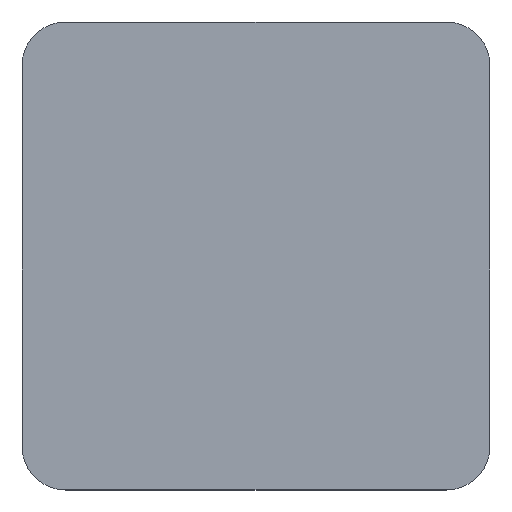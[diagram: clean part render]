
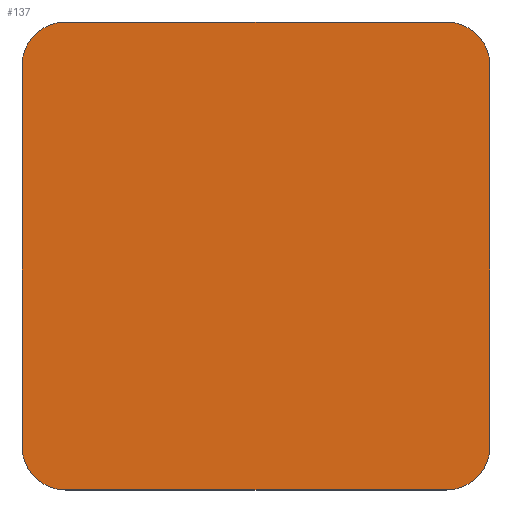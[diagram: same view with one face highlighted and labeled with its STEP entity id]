
A CAD part, top view. The second image highlights one B-rep face of the part: STEP entity #137.
In plain terms, the highlighted planar face has unit normal (0, 0, 1).
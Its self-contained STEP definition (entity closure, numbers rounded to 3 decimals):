
#21 = EDGE_CURVE('',#22,#24,#26,.T.);
#22 = VERTEX_POINT('',#23);
#23 = CARTESIAN_POINT('',(-37.5,-30.5,4.));
#24 = VERTEX_POINT('',#25);
#25 = CARTESIAN_POINT('',(-37.5,30.5,4.));
#26 = SURFACE_CURVE('',#27,(#31,#43),.PCURVE_S1.);
#27 = LINE('',#28,#29);
#28 = CARTESIAN_POINT('',(-37.5,-37.5,4.));
#29 = VECTOR('',#30,1.);
#30 = DIRECTION('',(0.,1.,0.));
#31 = PCURVE('',#32,#37);
#32 = PLANE('',#33);
#33 = AXIS2_PLACEMENT_3D('',#34,#35,#36);
#34 = CARTESIAN_POINT('',(-37.5,-37.5,0.));
#35 = DIRECTION('',(1.,0.,0.));
#36 = DIRECTION('',(0.,0.,1.));
#37 = DEFINITIONAL_REPRESENTATION('',(#38),#42);
#38 = LINE('',#39,#40);
#39 = CARTESIAN_POINT('',(4.,0.));
#40 = VECTOR('',#41,1.);
#41 = DIRECTION('',(0.,-1.));
#42 = ( GEOMETRIC_REPRESENTATION_CONTEXT(2) 
PARAMETRIC_REPRESENTATION_CONTEXT() REPRESENTATION_CONTEXT('2D SPACE',''
  ) );
#43 = PCURVE('',#44,#49);
#44 = PLANE('',#45);
#45 = AXIS2_PLACEMENT_3D('',#46,#47,#48);
#46 = CARTESIAN_POINT('',(-37.5,-37.5,4.));
#47 = DIRECTION('',(0.,0.,1.));
#48 = DIRECTION('',(1.,0.,0.));
#49 = DEFINITIONAL_REPRESENTATION('',(#50),#54);
#50 = LINE('',#51,#52);
#51 = CARTESIAN_POINT('',(0.,0.));
#52 = VECTOR('',#53,1.);
#53 = DIRECTION('',(0.,1.));
#54 = ( GEOMETRIC_REPRESENTATION_CONTEXT(2) 
PARAMETRIC_REPRESENTATION_CONTEXT() REPRESENTATION_CONTEXT('2D SPACE',''
  ) );
#72 = CYLINDRICAL_SURFACE('',#73,7.);
#73 = AXIS2_PLACEMENT_3D('',#74,#75,#76);
#74 = CARTESIAN_POINT('',(-30.5,-30.5,0.));
#75 = DIRECTION('',(0.,0.,1.));
#76 = DIRECTION('',(-1.,-0.,0.));
#126 = CYLINDRICAL_SURFACE('',#127,7.);
#127 = AXIS2_PLACEMENT_3D('',#128,#129,#130);
#128 = CARTESIAN_POINT('',(-30.5,30.5,0.));
#129 = DIRECTION('',(0.,0.,1.));
#130 = DIRECTION('',(-1.,-0.,0.));
#137 = ADVANCED_FACE('',(#138),#44,.T.);
#138 = FACE_BOUND('',#139,.T.);
#139 = EDGE_LOOP('',(#140,#141,#165,#193,#226,#254,#283,#311));
#140 = ORIENTED_EDGE('',*,*,#21,.F.);
#141 = ORIENTED_EDGE('',*,*,#142,.T.);
#142 = EDGE_CURVE('',#22,#143,#145,.T.);
#143 = VERTEX_POINT('',#144);
#144 = CARTESIAN_POINT('',(-30.5,-37.5,4.));
#145 = SURFACE_CURVE('',#146,(#151,#158),.PCURVE_S1.);
#146 = CIRCLE('',#147,7.);
#147 = AXIS2_PLACEMENT_3D('',#148,#149,#150);
#148 = CARTESIAN_POINT('',(-30.5,-30.5,4.));
#149 = DIRECTION('',(0.,0.,1.));
#150 = DIRECTION('',(0.,-1.,0.));
#151 = PCURVE('',#44,#152);
#152 = DEFINITIONAL_REPRESENTATION('',(#153),#157);
#153 = CIRCLE('',#154,7.);
#154 = AXIS2_PLACEMENT_2D('',#155,#156);
#155 = CARTESIAN_POINT('',(7.,7.));
#156 = DIRECTION('',(0.,-1.));
#157 = ( GEOMETRIC_REPRESENTATION_CONTEXT(2) 
PARAMETRIC_REPRESENTATION_CONTEXT() REPRESENTATION_CONTEXT('2D SPACE',''
  ) );
#158 = PCURVE('',#72,#159);
#159 = DEFINITIONAL_REPRESENTATION('',(#160),#164);
#160 = LINE('',#161,#162);
#161 = CARTESIAN_POINT('',(-4.712,4.));
#162 = VECTOR('',#163,1.);
#163 = DIRECTION('',(1.,0.));
#164 = ( GEOMETRIC_REPRESENTATION_CONTEXT(2) 
PARAMETRIC_REPRESENTATION_CONTEXT() REPRESENTATION_CONTEXT('2D SPACE',''
  ) );
#165 = ORIENTED_EDGE('',*,*,#166,.T.);
#166 = EDGE_CURVE('',#143,#167,#169,.T.);
#167 = VERTEX_POINT('',#168);
#168 = CARTESIAN_POINT('',(30.5,-37.5,4.));
#169 = SURFACE_CURVE('',#170,(#174,#181),.PCURVE_S1.);
#170 = LINE('',#171,#172);
#171 = CARTESIAN_POINT('',(-37.5,-37.5,4.));
#172 = VECTOR('',#173,1.);
#173 = DIRECTION('',(1.,0.,0.));
#174 = PCURVE('',#44,#175);
#175 = DEFINITIONAL_REPRESENTATION('',(#176),#180);
#176 = LINE('',#177,#178);
#177 = CARTESIAN_POINT('',(0.,0.));
#178 = VECTOR('',#179,1.);
#179 = DIRECTION('',(1.,0.));
#180 = ( GEOMETRIC_REPRESENTATION_CONTEXT(2) 
PARAMETRIC_REPRESENTATION_CONTEXT() REPRESENTATION_CONTEXT('2D SPACE',''
  ) );
#181 = PCURVE('',#182,#187);
#182 = PLANE('',#183);
#183 = AXIS2_PLACEMENT_3D('',#184,#185,#186);
#184 = CARTESIAN_POINT('',(-37.5,-37.5,0.));
#185 = DIRECTION('',(0.,1.,0.));
#186 = DIRECTION('',(0.,0.,1.));
#187 = DEFINITIONAL_REPRESENTATION('',(#188),#192);
#188 = LINE('',#189,#190);
#189 = CARTESIAN_POINT('',(4.,0.));
#190 = VECTOR('',#191,1.);
#191 = DIRECTION('',(0.,1.));
#192 = ( GEOMETRIC_REPRESENTATION_CONTEXT(2) 
PARAMETRIC_REPRESENTATION_CONTEXT() REPRESENTATION_CONTEXT('2D SPACE',''
  ) );
#193 = ORIENTED_EDGE('',*,*,#194,.F.);
#194 = EDGE_CURVE('',#195,#167,#197,.T.);
#195 = VERTEX_POINT('',#196);
#196 = CARTESIAN_POINT('',(37.5,-30.5,4.));
#197 = SURFACE_CURVE('',#198,(#203,#214),.PCURVE_S1.);
#198 = CIRCLE('',#199,7.);
#199 = AXIS2_PLACEMENT_3D('',#200,#201,#202);
#200 = CARTESIAN_POINT('',(30.5,-30.5,4.));
#201 = DIRECTION('',(-0.,-0.,-1.));
#202 = DIRECTION('',(0.,-1.,0.));
#203 = PCURVE('',#44,#204);
#204 = DEFINITIONAL_REPRESENTATION('',(#205),#213);
#205 = ( BOUNDED_CURVE() B_SPLINE_CURVE(2,(#206,#207,#208,#209,#210,#211
,#212),.UNSPECIFIED.,.T.,.F.) B_SPLINE_CURVE_WITH_KNOTS((1,2,2,2,2,1),(
    -2.094,0.,2.094,4.189,6.283,
8.378),.UNSPECIFIED.) CURVE() GEOMETRIC_REPRESENTATION_ITEM() 
RATIONAL_B_SPLINE_CURVE((1.,0.5,1.,0.5,1.,0.5,1.)) REPRESENTATION_ITEM(
  '') );
#206 = CARTESIAN_POINT('',(68.,0.));
#207 = CARTESIAN_POINT('',(55.876,0.));
#208 = CARTESIAN_POINT('',(61.938,10.5));
#209 = CARTESIAN_POINT('',(68.,21.));
#210 = CARTESIAN_POINT('',(74.062,10.5));
#211 = CARTESIAN_POINT('',(80.124,0.));
#212 = CARTESIAN_POINT('',(68.,0.));
#213 = ( GEOMETRIC_REPRESENTATION_CONTEXT(2) 
PARAMETRIC_REPRESENTATION_CONTEXT() REPRESENTATION_CONTEXT('2D SPACE',''
  ) );
#214 = PCURVE('',#215,#220);
#215 = CYLINDRICAL_SURFACE('',#216,7.);
#216 = AXIS2_PLACEMENT_3D('',#217,#218,#219);
#217 = CARTESIAN_POINT('',(30.5,-30.5,0.));
#218 = DIRECTION('',(0.,0.,1.));
#219 = DIRECTION('',(1.,0.,-0.));
#220 = DEFINITIONAL_REPRESENTATION('',(#221),#225);
#221 = LINE('',#222,#223);
#222 = CARTESIAN_POINT('',(4.712,4.));
#223 = VECTOR('',#224,1.);
#224 = DIRECTION('',(-1.,0.));
#225 = ( GEOMETRIC_REPRESENTATION_CONTEXT(2) 
PARAMETRIC_REPRESENTATION_CONTEXT() REPRESENTATION_CONTEXT('2D SPACE',''
  ) );
#226 = ORIENTED_EDGE('',*,*,#227,.T.);
#227 = EDGE_CURVE('',#195,#228,#230,.T.);
#228 = VERTEX_POINT('',#229);
#229 = CARTESIAN_POINT('',(37.5,30.5,4.));
#230 = SURFACE_CURVE('',#231,(#235,#242),.PCURVE_S1.);
#231 = LINE('',#232,#233);
#232 = CARTESIAN_POINT('',(37.5,-37.5,4.));
#233 = VECTOR('',#234,1.);
#234 = DIRECTION('',(0.,1.,0.));
#235 = PCURVE('',#44,#236);
#236 = DEFINITIONAL_REPRESENTATION('',(#237),#241);
#237 = LINE('',#238,#239);
#238 = CARTESIAN_POINT('',(75.,0.));
#239 = VECTOR('',#240,1.);
#240 = DIRECTION('',(0.,1.));
#241 = ( GEOMETRIC_REPRESENTATION_CONTEXT(2) 
PARAMETRIC_REPRESENTATION_CONTEXT() REPRESENTATION_CONTEXT('2D SPACE',''
  ) );
#242 = PCURVE('',#243,#248);
#243 = PLANE('',#244);
#244 = AXIS2_PLACEMENT_3D('',#245,#246,#247);
#245 = CARTESIAN_POINT('',(37.5,-37.5,0.));
#246 = DIRECTION('',(1.,0.,0.));
#247 = DIRECTION('',(0.,0.,1.));
#248 = DEFINITIONAL_REPRESENTATION('',(#249),#253);
#249 = LINE('',#250,#251);
#250 = CARTESIAN_POINT('',(4.,0.));
#251 = VECTOR('',#252,1.);
#252 = DIRECTION('',(0.,-1.));
#253 = ( GEOMETRIC_REPRESENTATION_CONTEXT(2) 
PARAMETRIC_REPRESENTATION_CONTEXT() REPRESENTATION_CONTEXT('2D SPACE',''
  ) );
#254 = ORIENTED_EDGE('',*,*,#255,.T.);
#255 = EDGE_CURVE('',#228,#256,#258,.T.);
#256 = VERTEX_POINT('',#257);
#257 = CARTESIAN_POINT('',(30.5,37.5,4.));
#258 = SURFACE_CURVE('',#259,(#264,#271),.PCURVE_S1.);
#259 = CIRCLE('',#260,7.);
#260 = AXIS2_PLACEMENT_3D('',#261,#262,#263);
#261 = CARTESIAN_POINT('',(30.5,30.5,4.));
#262 = DIRECTION('',(0.,0.,1.));
#263 = DIRECTION('',(0.,-1.,0.));
#264 = PCURVE('',#44,#265);
#265 = DEFINITIONAL_REPRESENTATION('',(#266),#270);
#266 = CIRCLE('',#267,7.);
#267 = AXIS2_PLACEMENT_2D('',#268,#269);
#268 = CARTESIAN_POINT('',(68.,68.));
#269 = DIRECTION('',(0.,-1.));
#270 = ( GEOMETRIC_REPRESENTATION_CONTEXT(2) 
PARAMETRIC_REPRESENTATION_CONTEXT() REPRESENTATION_CONTEXT('2D SPACE',''
  ) );
#271 = PCURVE('',#272,#277);
#272 = CYLINDRICAL_SURFACE('',#273,7.);
#273 = AXIS2_PLACEMENT_3D('',#274,#275,#276);
#274 = CARTESIAN_POINT('',(30.5,30.5,0.));
#275 = DIRECTION('',(0.,0.,1.));
#276 = DIRECTION('',(1.,0.,-0.));
#277 = DEFINITIONAL_REPRESENTATION('',(#278),#282);
#278 = LINE('',#279,#280);
#279 = CARTESIAN_POINT('',(-1.571,4.));
#280 = VECTOR('',#281,1.);
#281 = DIRECTION('',(1.,0.));
#282 = ( GEOMETRIC_REPRESENTATION_CONTEXT(2) 
PARAMETRIC_REPRESENTATION_CONTEXT() REPRESENTATION_CONTEXT('2D SPACE',''
  ) );
#283 = ORIENTED_EDGE('',*,*,#284,.F.);
#284 = EDGE_CURVE('',#285,#256,#287,.T.);
#285 = VERTEX_POINT('',#286);
#286 = CARTESIAN_POINT('',(-30.5,37.5,4.));
#287 = SURFACE_CURVE('',#288,(#292,#299),.PCURVE_S1.);
#288 = LINE('',#289,#290);
#289 = CARTESIAN_POINT('',(-37.5,37.5,4.));
#290 = VECTOR('',#291,1.);
#291 = DIRECTION('',(1.,0.,0.));
#292 = PCURVE('',#44,#293);
#293 = DEFINITIONAL_REPRESENTATION('',(#294),#298);
#294 = LINE('',#295,#296);
#295 = CARTESIAN_POINT('',(0.,75.));
#296 = VECTOR('',#297,1.);
#297 = DIRECTION('',(1.,0.));
#298 = ( GEOMETRIC_REPRESENTATION_CONTEXT(2) 
PARAMETRIC_REPRESENTATION_CONTEXT() REPRESENTATION_CONTEXT('2D SPACE',''
  ) );
#299 = PCURVE('',#300,#305);
#300 = PLANE('',#301);
#301 = AXIS2_PLACEMENT_3D('',#302,#303,#304);
#302 = CARTESIAN_POINT('',(-37.5,37.5,0.));
#303 = DIRECTION('',(0.,1.,0.));
#304 = DIRECTION('',(0.,0.,1.));
#305 = DEFINITIONAL_REPRESENTATION('',(#306),#310);
#306 = LINE('',#307,#308);
#307 = CARTESIAN_POINT('',(4.,0.));
#308 = VECTOR('',#309,1.);
#309 = DIRECTION('',(0.,1.));
#310 = ( GEOMETRIC_REPRESENTATION_CONTEXT(2) 
PARAMETRIC_REPRESENTATION_CONTEXT() REPRESENTATION_CONTEXT('2D SPACE',''
  ) );
#311 = ORIENTED_EDGE('',*,*,#312,.F.);
#312 = EDGE_CURVE('',#24,#285,#313,.T.);
#313 = SURFACE_CURVE('',#314,(#319,#330),.PCURVE_S1.);
#314 = CIRCLE('',#315,7.);
#315 = AXIS2_PLACEMENT_3D('',#316,#317,#318);
#316 = CARTESIAN_POINT('',(-30.5,30.5,4.));
#317 = DIRECTION('',(-0.,-0.,-1.));
#318 = DIRECTION('',(0.,-1.,0.));
#319 = PCURVE('',#44,#320);
#320 = DEFINITIONAL_REPRESENTATION('',(#321),#329);
#321 = ( BOUNDED_CURVE() B_SPLINE_CURVE(2,(#322,#323,#324,#325,#326,#327
,#328),.UNSPECIFIED.,.T.,.F.) B_SPLINE_CURVE_WITH_KNOTS((1,2,2,2,2,1),(
    -2.094,0.,2.094,4.189,6.283,
8.378),.UNSPECIFIED.) CURVE() GEOMETRIC_REPRESENTATION_ITEM() 
RATIONAL_B_SPLINE_CURVE((1.,0.5,1.,0.5,1.,0.5,1.)) REPRESENTATION_ITEM(
  '') );
#322 = CARTESIAN_POINT('',(7.,61.));
#323 = CARTESIAN_POINT('',(-5.124,61.));
#324 = CARTESIAN_POINT('',(0.938,71.5));
#325 = CARTESIAN_POINT('',(7.,82.));
#326 = CARTESIAN_POINT('',(13.062,71.5));
#327 = CARTESIAN_POINT('',(19.124,61.));
#328 = CARTESIAN_POINT('',(7.,61.));
#329 = ( GEOMETRIC_REPRESENTATION_CONTEXT(2) 
PARAMETRIC_REPRESENTATION_CONTEXT() REPRESENTATION_CONTEXT('2D SPACE',''
  ) );
#330 = PCURVE('',#126,#331);
#331 = DEFINITIONAL_REPRESENTATION('',(#332),#336);
#332 = LINE('',#333,#334);
#333 = CARTESIAN_POINT('',(1.571,4.));
#334 = VECTOR('',#335,1.);
#335 = DIRECTION('',(-1.,0.));
#336 = ( GEOMETRIC_REPRESENTATION_CONTEXT(2) 
PARAMETRIC_REPRESENTATION_CONTEXT() REPRESENTATION_CONTEXT('2D SPACE',''
  ) );
